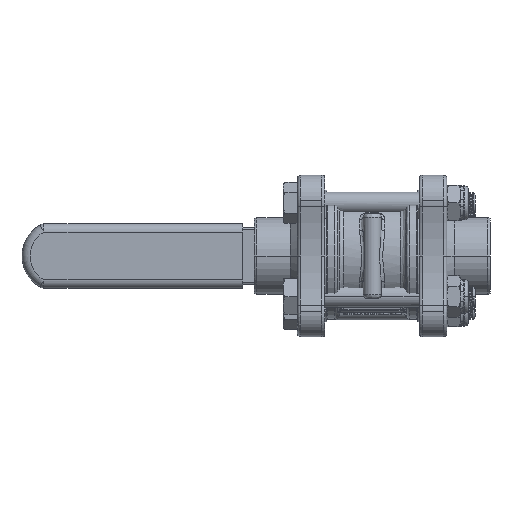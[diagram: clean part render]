
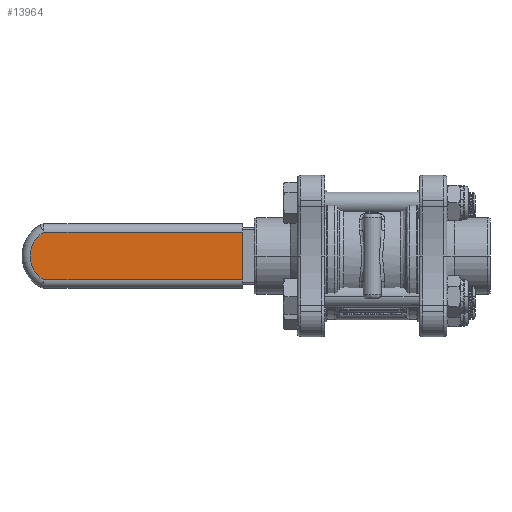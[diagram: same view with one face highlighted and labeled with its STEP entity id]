
A CAD part, front view. The second image highlights one B-rep face of the part: STEP entity #13964.
In plain terms, the highlighted planar face has unit normal (0, -1, 0).
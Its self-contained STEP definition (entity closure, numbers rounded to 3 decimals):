
#2650 = LINE ( 'NONE', #7121, #2655 ) ;
#2655 = VECTOR ( 'NONE', #7109, 1000. ) ;
#2707 = LINE ( 'NONE', #7260, #2712 ) ;
#2712 = VECTOR ( 'NONE', #7263, 1000. ) ;
#2714 = LINE ( 'NONE', #7244, #2717 ) ;
#2715 = CIRCLE ( 'NONE', #5871, 7.75 ) ;
#2717 = VECTOR ( 'NONE', #7247, 1000. ) ;
#5871 = AXIS2_PLACEMENT_3D ( 'NONE', #7284, #7286, #7288 ) ;
#7109 = DIRECTION ( 'NONE',  ( 0., 0., -1. ) ) ;
#7121 = CARTESIAN_POINT ( 'NONE',  ( 0., -2.5, -6.7 ) ) ;
#7244 = CARTESIAN_POINT ( 'NONE',  ( 62., -2.5, -6.7 ) ) ;
#7247 = DIRECTION ( 'NONE',  ( -1., 0., 0. ) ) ;
#7260 = CARTESIAN_POINT ( 'NONE',  ( 62., -2.5, 6.7 ) ) ;
#7263 = DIRECTION ( 'NONE',  ( -1., 0., 0. ) ) ;
#7284 = CARTESIAN_POINT ( 'NONE',  ( 51.95, -2.5, 0. ) ) ;
#7286 = DIRECTION ( 'NONE',  ( 0., -1., 0. ) ) ;
#7288 = DIRECTION ( 'NONE',  ( 0., 0., 1. ) ) ;
#13964 = ADVANCED_FACE ( 'NONE', ( #40246 ), #46171, .F. ) ;
#40246 = FACE_OUTER_BOUND ( 'NONE', #54277, .T. ) ;
#41149 = AXIS2_PLACEMENT_3D ( 'NONE', #46166, #46174, #46175 ) ;
#46166 = CARTESIAN_POINT ( 'NONE',  ( 62., -2.5, -6.7 ) ) ;
#46171 = PLANE ( 'NONE',  #41149 ) ;
#46174 = DIRECTION ( 'NONE',  ( 0., 1., 0. ) ) ;
#46175 = DIRECTION ( 'NONE',  ( 0., 0., 1. ) ) ;
#50369 = ORIENTED_EDGE ( 'NONE', *, *, #61030, .F. ) ;
#50370 = ORIENTED_EDGE ( 'NONE', *, *, #61031, .T. ) ;
#50371 = ORIENTED_EDGE ( 'NONE', *, *, #61028, .T. ) ;
#50372 = ORIENTED_EDGE ( 'NONE', *, *, #61006, .T. ) ;
#53853 = VERTEX_POINT ( 'NONE', #75707 ) ;
#53861 = VERTEX_POINT ( 'NONE', #75715 ) ;
#53880 = VERTEX_POINT ( 'NONE', #75734 ) ;
#53881 = VERTEX_POINT ( 'NONE', #75735 ) ;
#54277 = EDGE_LOOP ( 'NONE', ( #50369, #50370, #50371, #50372 ) ) ;
#61006 = EDGE_CURVE ( 'NONE', #53853, #53861, #2650, .T. ) ;
#61028 = EDGE_CURVE ( 'NONE', #53880, #53853, #2707, .T. ) ;
#61030 = EDGE_CURVE ( 'NONE', #53881, #53861, #2714, .T. ) ;
#61031 = EDGE_CURVE ( 'NONE', #53881, #53880, #2715, .T. ) ;
#75707 = CARTESIAN_POINT ( 'NONE',  ( 0., -2.5, 6.7 ) ) ;
#75715 = CARTESIAN_POINT ( 'NONE',  ( 0., -2.5, -6.7 ) ) ;
#75734 = CARTESIAN_POINT ( 'NONE',  ( 55.845, -2.5, 6.7 ) ) ;
#75735 = CARTESIAN_POINT ( 'NONE',  ( 55.845, -2.5, -6.7 ) ) ;
